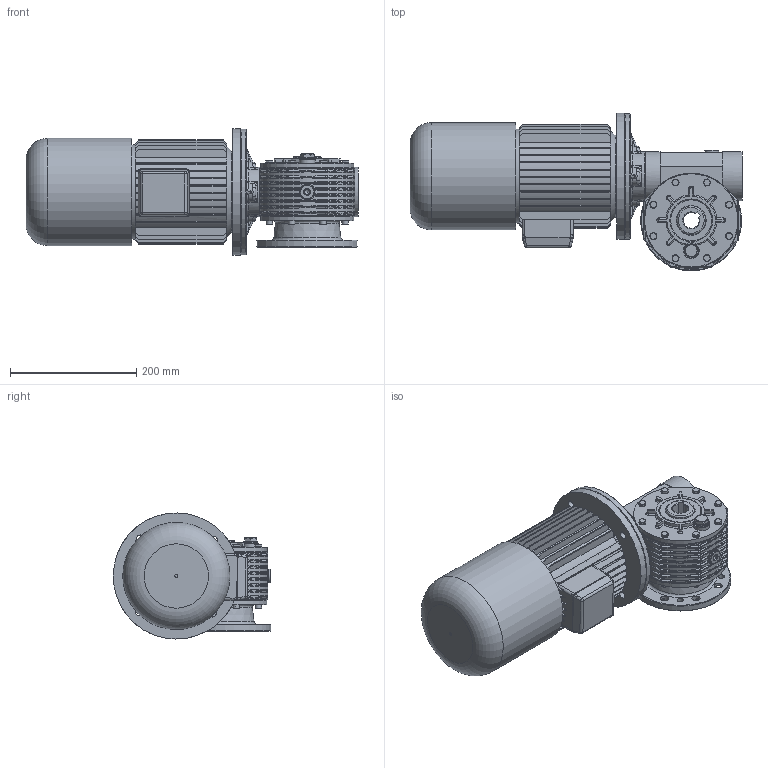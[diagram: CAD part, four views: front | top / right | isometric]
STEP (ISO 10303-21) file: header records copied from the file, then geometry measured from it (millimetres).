
FILE_DESCRIPTION((''),'2;1');
FILE_NAME('Y:\Archivi Inventor\Prog_01\GRAND_30\Figurini\MRV30 sito\80 Autofrenante\MRV30_F2_80_B5.stp','2013-02-06T10:03:23',('tech3'),(''),'Autodesk Inventor 2013','Autodesk Inventor 2013','');
FILE_SCHEMA(('AUTOMOTIVE_DESIGN { 1 0 10303 214 1 1 1 1 }'));
Length unit declared in the file: millimetre
Products named in the file (18): MRV30_80_B5; MRV30; 0103001-A2 fig; 0103008.A1 fig F=25; PARAOLIO 45x65x10; RCA_52x7; Guarnizione 3_8 GAS; Tappo 3_8 GAS_esagn_incsst; 0103029; DIN EN 24017 M6 x 20; 0103028; 0103002-A0 fig; 0103003.A0 fig; DIN EN ISO 4762 M6 x 20; Tappo3_8 GAS; UNI 5931 M 8 x  25; 0103006; motori B5 brake 80
Assembly tree (39 placements, depth 3):
  MRV30_80_B5
    MRV30
      0103001-A2 fig
      0103008.A1 fig F=25
      PARAOLIO 45x65x10  x2
      RCA_52x7
      Guarnizione 3_8 GAS  x3
      Tappo 3_8 GAS_esagn_incsst  x2
      0103029  x2
      DIN EN 24017 M6 x 20  x8
      0103028
      0103002-A0 fig
      0103003.A0 fig
      DIN EN ISO 4762 M6 x 20  x8
      Tappo3_8 GAS
      UNI 5931 M 8 x  25  x4
    0103006
    motori B5 brake 80
Bounding box: 526.4 x 249.68 x 199.97 mm (x, y, z)
Volume: 6165404.6 mm3; surface area: 966058.6 mm2
Topology: 39 solids, 42 shells, 2080 faces, 5038 edges, 3015 vertices
Faces by surface type: plane 925, cylinder 653, torus 201, bspline 142, cone 119, sphere 40
Full cylindrical faces by diameter (mm): 2 x2, 4.917 x16, 5 x1, 6 x16, 6.5 x24, 6.647 x4, 7 x8, 8 x6, 8.5 x8, 8.88 x8, 9.5 x4, 10 x8, 11 x8, 11.5 x4, 13 x12, 13.046 x1, 14.95 x3, 16.3 x3, 16.5 x2, 19 x1, 22 x6, 25 x1, 43 x1, 45 x6, 45.76 x1, 50.881 x2, 52 x6, 55 x1, 60.5 x2, 65 x4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
Entity records: 58878 total; most frequent: CARTESIAN_POINT 17956, DIRECTION 8601, ORIENTED_EDGE 7962, EDGE_CURVE 3981, AXIS2_PLACEMENT_3D 3413, VERTEX_POINT 2529, EDGE_LOOP 2135, VECTOR 1775
